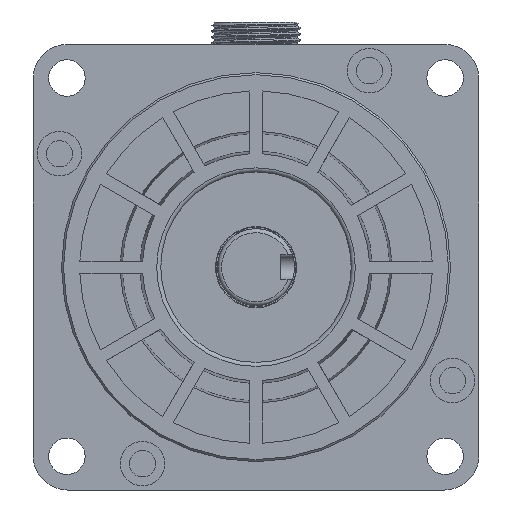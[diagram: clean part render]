
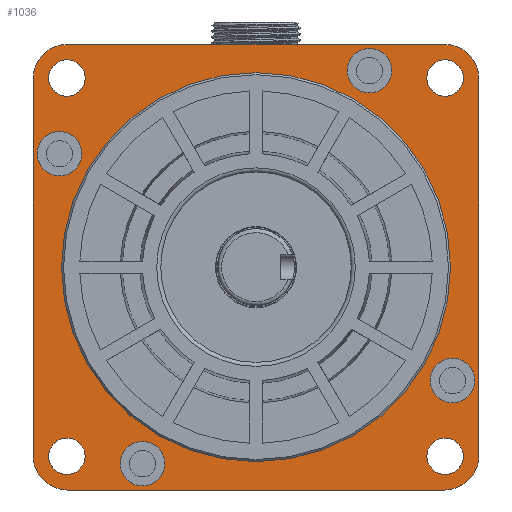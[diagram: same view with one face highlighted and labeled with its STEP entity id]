
A CAD part, front view. The second image highlights one B-rep face of the part: STEP entity #1036.
In plain terms, the highlighted planar face has unit normal (0, -1, 0).
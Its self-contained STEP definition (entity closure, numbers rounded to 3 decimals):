
#1036=ADVANCED_FACE('',(#1896,#1897,#1898,#1899,#1900,#1901,#1902,#1903,
#1904,#1905),#1285,.T.);
#1285=PLANE('',#7720);
#1603=CIRCLE('',#7534,8.5);
#1604=CIRCLE('',#7536,8.5);
#1605=CIRCLE('',#7538,5.5);
#1606=CIRCLE('',#7540,5.5);
#1702=CIRCLE('',#7710,48.);
#1703=CIRCLE('',#7712,4.5);
#1704=CIRCLE('',#7713,4.5);
#1705=CIRCLE('',#7714,4.5);
#1706=CIRCLE('',#7715,4.5);
#1707=CIRCLE('',#7716,8.5);
#1708=CIRCLE('',#7717,8.5);
#1709=CIRCLE('',#7718,5.5);
#1710=CIRCLE('',#7719,5.5);
#1896=FACE_BOUND('',#2331,.T.);
#1897=FACE_BOUND('',#2332,.T.);
#1898=FACE_BOUND('',#2333,.T.);
#1899=FACE_BOUND('',#2334,.T.);
#1900=FACE_BOUND('',#2335,.T.);
#1901=FACE_BOUND('',#2336,.T.);
#1902=FACE_BOUND('',#2337,.T.);
#1903=FACE_BOUND('',#2338,.T.);
#1904=FACE_BOUND('',#2339,.T.);
#1905=FACE_BOUND('',#2340,.T.);
#2331=EDGE_LOOP('',(#3909));
#2332=EDGE_LOOP('',(#3910));
#2333=EDGE_LOOP('',(#3911));
#2334=EDGE_LOOP('',(#3912));
#2335=EDGE_LOOP('',(#3913,#3914,#3915,#3916,#3917,#3918,#3919,#3920));
#2336=EDGE_LOOP('',(#3921));
#2337=EDGE_LOOP('',(#3922));
#2338=EDGE_LOOP('',(#3923));
#2339=EDGE_LOOP('',(#3924));
#2340=EDGE_LOOP('',(#3925));
#3909=ORIENTED_EDGE('',*,*,#5985,.T.);
#3910=ORIENTED_EDGE('',*,*,#5986,.T.);
#3911=ORIENTED_EDGE('',*,*,#5987,.T.);
#3912=ORIENTED_EDGE('',*,*,#5988,.T.);
#3913=ORIENTED_EDGE('',*,*,#5989,.T.);
#3914=ORIENTED_EDGE('',*,*,#5990,.F.);
#3915=ORIENTED_EDGE('',*,*,#5724,.T.);
#3916=ORIENTED_EDGE('',*,*,#5817,.F.);
#3917=ORIENTED_EDGE('',*,*,#5720,.T.);
#3918=ORIENTED_EDGE('',*,*,#5991,.F.);
#3919=ORIENTED_EDGE('',*,*,#5992,.T.);
#3920=ORIENTED_EDGE('',*,*,#5993,.F.);
#3921=ORIENTED_EDGE('',*,*,#5727,.T.);
#3922=ORIENTED_EDGE('',*,*,#5726,.T.);
#3923=ORIENTED_EDGE('',*,*,#5984,.F.);
#3924=ORIENTED_EDGE('',*,*,#5994,.T.);
#3925=ORIENTED_EDGE('',*,*,#5995,.T.);
#4890=VERTEX_POINT('',#13764);
#4891=VERTEX_POINT('',#13765);
#4892=VERTEX_POINT('',#13770);
#4893=VERTEX_POINT('',#13772);
#4894=VERTEX_POINT('',#13776);
#4895=VERTEX_POINT('',#13779);
#5060=VERTEX_POINT('',#14530);
#5061=VERTEX_POINT('',#14533);
#5062=VERTEX_POINT('',#14535);
#5063=VERTEX_POINT('',#14537);
#5064=VERTEX_POINT('',#14539);
#5065=VERTEX_POINT('',#14541);
#5066=VERTEX_POINT('',#14542);
#5067=VERTEX_POINT('',#14545);
#5068=VERTEX_POINT('',#14547);
#5069=VERTEX_POINT('',#14550);
#5070=VERTEX_POINT('',#14552);
#5720=EDGE_CURVE('',#4890,#4891,#1603,.T.);
#5724=EDGE_CURVE('',#4893,#4892,#1604,.T.);
#5726=EDGE_CURVE('',#4894,#4894,#1605,.T.);
#5727=EDGE_CURVE('',#4895,#4895,#1606,.T.);
#5817=EDGE_CURVE('',#4890,#4892,#6443,.T.);
#5984=EDGE_CURVE('',#5060,#5060,#1702,.T.);
#5985=EDGE_CURVE('',#5061,#5061,#1703,.T.);
#5986=EDGE_CURVE('',#5062,#5062,#1704,.T.);
#5987=EDGE_CURVE('',#5063,#5063,#1705,.T.);
#5988=EDGE_CURVE('',#5064,#5064,#1706,.T.);
#5989=EDGE_CURVE('',#5065,#5066,#1707,.T.);
#5990=EDGE_CURVE('',#4893,#5066,#6527,.T.);
#5991=EDGE_CURVE('',#5067,#4891,#6528,.T.);
#5992=EDGE_CURVE('',#5067,#5068,#1708,.T.);
#5993=EDGE_CURVE('',#5065,#5068,#6529,.T.);
#5994=EDGE_CURVE('',#5069,#5069,#1709,.T.);
#5995=EDGE_CURVE('',#5070,#5070,#1710,.T.);
#6443=LINE('',#14171,#6901);
#6527=LINE('',#14543,#6985);
#6528=LINE('',#14544,#6986);
#6529=LINE('',#14548,#6987);
#6901=VECTOR('',#9242,1.);
#6985=VECTOR('',#9566,1.);
#6986=VECTOR('',#9567,1.);
#6987=VECTOR('',#9570,1.);
#7534=AXIS2_PLACEMENT_3D('',#13763,#9071,#9072);
#7536=AXIS2_PLACEMENT_3D('',#13771,#9078,#9079);
#7538=AXIS2_PLACEMENT_3D('',#13775,#9083,#9084);
#7540=AXIS2_PLACEMENT_3D('',#13778,#9087,#9088);
#7710=AXIS2_PLACEMENT_3D('',#14529,#9552,#9553);
#7712=AXIS2_PLACEMENT_3D('',#14532,#9556,#9557);
#7713=AXIS2_PLACEMENT_3D('',#14534,#9558,#9559);
#7714=AXIS2_PLACEMENT_3D('',#14536,#9560,#9561);
#7715=AXIS2_PLACEMENT_3D('',#14538,#9562,#9563);
#7716=AXIS2_PLACEMENT_3D('',#14540,#9564,#9565);
#7717=AXIS2_PLACEMENT_3D('',#14546,#9568,#9569);
#7718=AXIS2_PLACEMENT_3D('',#14549,#9571,#9572);
#7719=AXIS2_PLACEMENT_3D('',#14551,#9573,#9574);
#7720=AXIS2_PLACEMENT_3D('',#14553,#9575,#9576);
#9071=DIRECTION('',(0.,-1.,0.));
#9072=DIRECTION('',(-1.,0.,0.));
#9078=DIRECTION('',(0.,-1.,0.));
#9079=DIRECTION('',(-1.,0.,0.));
#9083=DIRECTION('',(0.,1.,0.));
#9084=DIRECTION('',(-1.,0.,0.));
#9087=DIRECTION('',(0.,1.,0.));
#9088=DIRECTION('',(-1.,0.,0.));
#9242=DIRECTION('',(0.,0.,1.));
#9552=DIRECTION('',(0.,-1.,0.));
#9553=DIRECTION('',(-1.,0.,0.));
#9556=DIRECTION('',(0.,1.,0.));
#9557=DIRECTION('',(-1.,0.,0.));
#9558=DIRECTION('',(0.,1.,0.));
#9559=DIRECTION('',(-1.,0.,0.));
#9560=DIRECTION('',(0.,1.,0.));
#9561=DIRECTION('',(-1.,0.,0.));
#9562=DIRECTION('',(0.,1.,0.));
#9563=DIRECTION('',(-1.,0.,0.));
#9564=DIRECTION('',(0.,-1.,0.));
#9565=DIRECTION('',(-1.,0.,0.));
#9566=DIRECTION('',(1.,0.,0.));
#9567=DIRECTION('',(-1.,0.,0.));
#9568=DIRECTION('',(0.,-1.,0.));
#9569=DIRECTION('',(-1.,0.,0.));
#9570=DIRECTION('',(0.,0.,-1.));
#9571=DIRECTION('',(0.,1.,0.));
#9572=DIRECTION('',(-1.,0.,0.));
#9573=DIRECTION('',(0.,1.,0.));
#9574=DIRECTION('',(-1.,0.,0.));
#9575=DIRECTION('',(0.,-1.,0.));
#9576=DIRECTION('',(1.,0.,0.));
#13763=CARTESIAN_POINT('',(-92.562,-291.466,-252.534));
#13764=CARTESIAN_POINT('',(-101.062,-291.466,-252.534));
#13765=CARTESIAN_POINT('',(-92.562,-291.466,-261.034));
#13770=CARTESIAN_POINT('',(-101.062,-291.466,-159.534));
#13771=CARTESIAN_POINT('',(-92.562,-291.466,-159.534));
#13772=CARTESIAN_POINT('',(-92.562,-291.466,-151.034));
#13775=CARTESIAN_POINT('',(-94.56,-291.466,-178.034));
#13776=CARTESIAN_POINT('',(-100.06,-291.466,-178.034));
#13778=CARTESIAN_POINT('',(-74.062,-291.466,-254.531));
#13779=CARTESIAN_POINT('',(-79.562,-291.466,-254.531));
#14171=CARTESIAN_POINT('',(-101.062,-291.466,-206.034));
#14529=CARTESIAN_POINT('',(-46.062,-291.466,-206.034));
#14530=CARTESIAN_POINT('',(-94.062,-291.466,-206.034));
#14532=CARTESIAN_POINT('',(0.607,-291.466,-159.365));
#14533=CARTESIAN_POINT('',(-3.893,-291.466,-159.365));
#14534=CARTESIAN_POINT('',(-92.732,-291.466,-159.365));
#14535=CARTESIAN_POINT('',(-97.232,-291.466,-159.365));
#14536=CARTESIAN_POINT('',(-92.732,-291.466,-252.703));
#14537=CARTESIAN_POINT('',(-97.232,-291.466,-252.703));
#14538=CARTESIAN_POINT('',(0.607,-291.466,-252.703));
#14539=CARTESIAN_POINT('',(-3.893,-291.466,-252.703));
#14540=CARTESIAN_POINT('',(0.438,-291.466,-159.534));
#14541=CARTESIAN_POINT('',(8.938,-291.466,-159.534));
#14542=CARTESIAN_POINT('',(0.438,-291.466,-151.034));
#14543=CARTESIAN_POINT('',(-46.062,-291.466,-151.034));
#14544=CARTESIAN_POINT('',(-46.062,-291.466,-261.034));
#14545=CARTESIAN_POINT('',(0.438,-291.466,-261.034));
#14546=CARTESIAN_POINT('',(0.438,-291.466,-252.534));
#14547=CARTESIAN_POINT('',(8.938,-291.466,-252.534));
#14548=CARTESIAN_POINT('',(8.938,-291.466,-206.034));
#14549=CARTESIAN_POINT('',(2.435,-291.466,-234.034));
#14550=CARTESIAN_POINT('',(-3.065,-291.466,-234.034));
#14551=CARTESIAN_POINT('',(-18.062,-291.466,-157.536));
#14552=CARTESIAN_POINT('',(-23.562,-291.466,-157.536));
#14553=CARTESIAN_POINT('',(-46.062,-291.466,-206.034));
